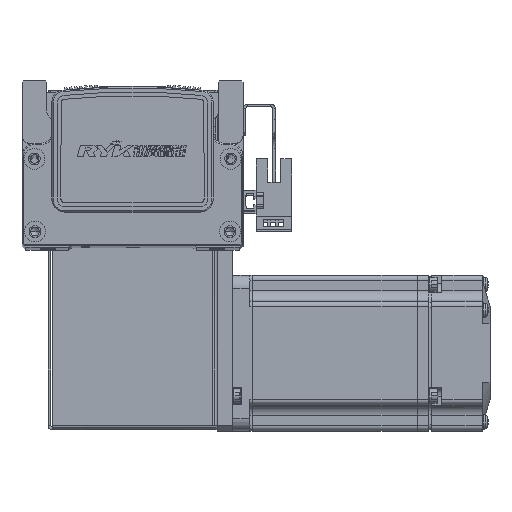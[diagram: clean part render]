
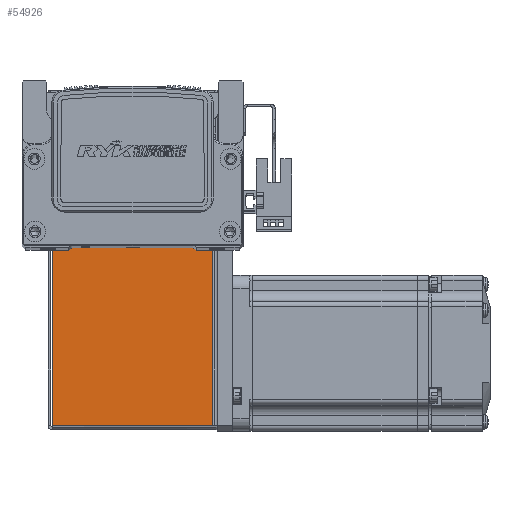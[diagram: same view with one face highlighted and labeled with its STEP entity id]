
A CAD part, top view. The second image highlights one B-rep face of the part: STEP entity #54926.
In plain terms, the highlighted planar face has unit normal (0, 0, 1).
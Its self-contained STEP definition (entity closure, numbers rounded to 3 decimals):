
#311 = CARTESIAN_POINT ( 'NONE',  ( 30.763, 0.737, 35. ) ) ;
#13062 = ORIENTED_EDGE ( 'NONE', *, *, #68248, .T. ) ;
#13112 = ORIENTED_EDGE ( 'NONE', *, *, #68294, .F. ) ;
#13143 = ORIENTED_EDGE ( 'NONE', *, *, #68364, .F. ) ;
#13163 = ORIENTED_EDGE ( 'NONE', *, *, #68241, .T. ) ;
#13178 = VERTEX_POINT ( 'NONE', #311 ) ;
#13187 = VERTEX_POINT ( 'NONE', #57519 ) ;
#13214 = VERTEX_POINT ( 'NONE', #57380 ) ;
#13237 = VERTEX_POINT ( 'NONE', #57432 ) ;
#16285 = AXIS2_PLACEMENT_3D ( 'NONE', #48494, #48469, #48462 ) ;
#29168 = FACE_OUTER_BOUND ( 'NONE', #75197, .T. ) ;
#48449 = PLANE ( 'NONE',  #16285 ) ;
#48462 = DIRECTION ( 'NONE',  ( -1., 0., 0. ) ) ;
#48469 = DIRECTION ( 'NONE',  ( 0., 0., -1. ) ) ;
#48494 = CARTESIAN_POINT ( 'NONE',  ( 0., 0., 35. ) ) ;
#54926 = ADVANCED_FACE ( 'NONE', ( #29168 ), #48449, .F. ) ;
#57380 = CARTESIAN_POINT ( 'NONE',  ( -30.793, 0.737, 35. ) ) ;
#57432 = CARTESIAN_POINT ( 'NONE',  ( -30.793, 72.5, 35. ) ) ;
#57519 = CARTESIAN_POINT ( 'NONE',  ( 30.763, 72.5, 35. ) ) ;
#68241 = EDGE_CURVE ( 'NONE', #13178, #13187, #70394, .T. ) ;
#68248 = EDGE_CURVE ( 'NONE', #13187, #13237, #70422, .T. ) ;
#68294 = EDGE_CURVE ( 'NONE', #13178, #13214, #70566, .T. ) ;
#68364 = EDGE_CURVE ( 'NONE', #13214, #13237, #70672, .T. ) ;
#70390 = VECTOR ( 'NONE', #71183, 1000. ) ;
#70394 = LINE ( 'NONE', #71194, #70390 ) ;
#70422 = LINE ( 'NONE', #71203, #70423 ) ;
#70423 = VECTOR ( 'NONE', #71204, 1000. ) ;
#70513 = VECTOR ( 'NONE', #71335, 1000. ) ;
#70566 = LINE ( 'NONE', #71317, #70513 ) ;
#70658 = VECTOR ( 'NONE', #71496, 1000. ) ;
#70672 = LINE ( 'NONE', #71520, #70658 ) ;
#71183 = DIRECTION ( 'NONE',  ( 0., 1., 0. ) ) ;
#71194 = CARTESIAN_POINT ( 'NONE',  ( 30.763, 0.737, 35. ) ) ;
#71203 = CARTESIAN_POINT ( 'NONE',  ( 0., 72.5, 35. ) ) ;
#71204 = DIRECTION ( 'NONE',  ( -1., 0., 0. ) ) ;
#71317 = CARTESIAN_POINT ( 'NONE',  ( -32.5, 0.737, 35. ) ) ;
#71335 = DIRECTION ( 'NONE',  ( -1., 0., 0. ) ) ;
#71496 = DIRECTION ( 'NONE',  ( 0., 1., 0. ) ) ;
#71520 = CARTESIAN_POINT ( 'NONE',  ( -30.793, 0., 35. ) ) ;
#75197 = EDGE_LOOP ( 'NONE', ( #13163, #13062, #13143, #13112 ) ) ;
